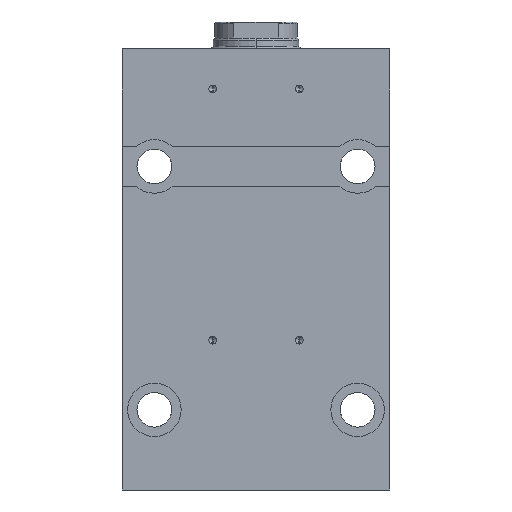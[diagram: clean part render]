
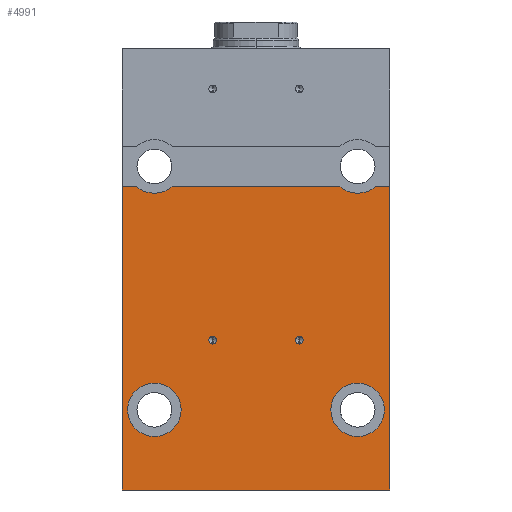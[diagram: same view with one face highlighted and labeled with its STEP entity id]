
A CAD part, left-side view. The second image highlights one B-rep face of the part: STEP entity #4991.
In plain terms, the highlighted planar face has unit normal (-1, 0, 0).
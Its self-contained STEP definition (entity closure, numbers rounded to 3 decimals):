
#181 = CARTESIAN_POINT ( 'NONE',  ( -37.5, 50., -175. ) ) ;
#186 = CIRCLE ( 'NONE', #2220, 10. ) ;
#228 = CARTESIAN_POINT ( 'NONE',  ( -37.5, 44.614, -61.5 ) ) ;
#449 = DIRECTION ( 'NONE',  ( 1., 0., 0. ) ) ;
#549 = VECTOR ( 'NONE', #1904, 1000. ) ;
#579 = EDGE_CURVE ( 'NONE', #1784, #6337, #4979, .T. ) ;
#600 = CARTESIAN_POINT ( 'NONE',  ( -37.5, 38., -54. ) ) ;
#666 = EDGE_CURVE ( 'NONE', #2901, #1944, #1542, .T. ) ;
#744 = CARTESIAN_POINT ( 'NONE',  ( -37.5, -16.2, -119. ) ) ;
#839 = CARTESIAN_POINT ( 'NONE',  ( -37.5, -38., -145. ) ) ;
#904 = CARTESIAN_POINT ( 'NONE',  ( -37.5, 38., -155. ) ) ;
#980 = FACE_BOUND ( 'NONE', #4460, .T. ) ;
#988 = VERTEX_POINT ( 'NONE', #1585 ) ;
#1008 = CIRCLE ( 'NONE', #3316, 1.425 ) ;
#1011 = FACE_BOUND ( 'NONE', #5348, .T. ) ;
#1081 = CARTESIAN_POINT ( 'NONE',  ( -37.5, -50., -175. ) ) ;
#1152 = EDGE_LOOP ( 'NONE', ( #5064, #6582, #6789, #1354, #2622, #4270, #4029, #4694 ) ) ;
#1154 = LINE ( 'NONE', #2537, #7679 ) ;
#1195 = CIRCLE ( 'NONE', #5150, 10. ) ;
#1243 = DIRECTION ( 'NONE',  ( 0., 0., 1. ) ) ;
#1291 = LINE ( 'NONE', #6743, #549 ) ;
#1354 = ORIENTED_EDGE ( 'NONE', *, *, #4770, .T. ) ;
#1376 = DIRECTION ( 'NONE',  ( -1., 0., 0. ) ) ;
#1385 = EDGE_CURVE ( 'NONE', #1588, #2234, #4333, .T. ) ;
#1391 = EDGE_CURVE ( 'NONE', #4804, #1784, #7657, .T. ) ;
#1400 = DIRECTION ( 'NONE',  ( 0., 0., 1. ) ) ;
#1402 = DIRECTION ( 'NONE',  ( 1., 0., 0. ) ) ;
#1475 = AXIS2_PLACEMENT_3D ( 'NONE', #3452, #4112, #7110 ) ;
#1522 = DIRECTION ( 'NONE',  ( 0., 0., -1. ) ) ;
#1542 = CIRCLE ( 'NONE', #5451, 10. ) ;
#1580 = EDGE_CURVE ( 'NONE', #4686, #7244, #1008, .T. ) ;
#1585 = CARTESIAN_POINT ( 'NONE',  ( -37.5, -31.386, -61.5 ) ) ;
#1588 = VERTEX_POINT ( 'NONE', #2643 ) ;
#1612 = FACE_BOUND ( 'NONE', #2936, .T. ) ;
#1696 = CIRCLE ( 'NONE', #5300, 1.425 ) ;
#1784 = VERTEX_POINT ( 'NONE', #2681 ) ;
#1904 = DIRECTION ( 'NONE',  ( 0., -1., 0. ) ) ;
#1944 = VERTEX_POINT ( 'NONE', #2965 ) ;
#1965 = CARTESIAN_POINT ( 'NONE',  ( -37.5, -38., -145. ) ) ;
#2150 = CARTESIAN_POINT ( 'NONE',  ( -37.5, -38., -135. ) ) ;
#2162 = ORIENTED_EDGE ( 'NONE', *, *, #2546, .T. ) ;
#2220 = AXIS2_PLACEMENT_3D ( 'NONE', #600, #3695, #6056 ) ;
#2222 = ORIENTED_EDGE ( 'NONE', *, *, #666, .T. ) ;
#2234 = VERTEX_POINT ( 'NONE', #4933 ) ;
#2366 = CIRCLE ( 'NONE', #6815, 1.425 ) ;
#2537 = CARTESIAN_POINT ( 'NONE',  ( -37.5, 50., -61.5 ) ) ;
#2546 = EDGE_CURVE ( 'NONE', #4985, #6777, #3902, .T. ) ;
#2550 = CARTESIAN_POINT ( 'NONE',  ( -37.5, 16.2, -117.575 ) ) ;
#2622 = ORIENTED_EDGE ( 'NONE', *, *, #579, .F. ) ;
#2643 = CARTESIAN_POINT ( 'NONE',  ( -37.5, -16.2, -120.425 ) ) ;
#2681 = CARTESIAN_POINT ( 'NONE',  ( -37.5, 50., -61.5 ) ) ;
#2771 = CARTESIAN_POINT ( 'NONE',  ( -37.5, 38., -145. ) ) ;
#2801 = EDGE_CURVE ( 'NONE', #5320, #988, #1195, .T. ) ;
#2811 = EDGE_CURVE ( 'NONE', #7028, #7622, #7111, .T. ) ;
#2901 = VERTEX_POINT ( 'NONE', #2150 ) ;
#2936 = EDGE_LOOP ( 'NONE', ( #4646, #4132 ) ) ;
#2965 = CARTESIAN_POINT ( 'NONE',  ( -37.5, -38., -155. ) ) ;
#2976 = CARTESIAN_POINT ( 'NONE',  ( -37.5, 16.2, -120.425 ) ) ;
#3144 = AXIS2_PLACEMENT_3D ( 'NONE', #1965, #1402, #5648 ) ;
#3145 = ORIENTED_EDGE ( 'NONE', *, *, #1385, .F. ) ;
#3172 = VERTEX_POINT ( 'NONE', #6235 ) ;
#3195 = VECTOR ( 'NONE', #5875, 1000. ) ;
#3213 = CARTESIAN_POINT ( 'NONE',  ( -37.5, -44.614, -61.5 ) ) ;
#3270 = DIRECTION ( 'NONE',  ( 1., 0., 0. ) ) ;
#3316 = AXIS2_PLACEMENT_3D ( 'NONE', #5569, #4389, #1400 ) ;
#3452 = CARTESIAN_POINT ( 'NONE',  ( -37.5, 50., -175. ) ) ;
#3470 = CARTESIAN_POINT ( 'NONE',  ( -37.5, 50., -175. ) ) ;
#3480 = EDGE_CURVE ( 'NONE', #5320, #7622, #3819, .T. ) ;
#3528 = PLANE ( 'NONE',  #1475 ) ;
#3533 = DIRECTION ( 'NONE',  ( 0., 0., -1. ) ) ;
#3565 = FACE_BOUND ( 'NONE', #5095, .T. ) ;
#3695 = DIRECTION ( 'NONE',  ( 1., 0., 0. ) ) ;
#3728 = CARTESIAN_POINT ( 'NONE',  ( -37.5, 50., -61.5 ) ) ;
#3749 = ORIENTED_EDGE ( 'NONE', *, *, #6090, .F. ) ;
#3819 = LINE ( 'NONE', #3728, #5292 ) ;
#3902 = CIRCLE ( 'NONE', #6929, 10. ) ;
#4029 = ORIENTED_EDGE ( 'NONE', *, *, #4649, .T. ) ;
#4112 = DIRECTION ( 'NONE',  ( -1., 0., 0. ) ) ;
#4132 = ORIENTED_EDGE ( 'NONE', *, *, #6567, .F. ) ;
#4270 = ORIENTED_EDGE ( 'NONE', *, *, #1391, .F. ) ;
#4333 = CIRCLE ( 'NONE', #5100, 1.425 ) ;
#4389 = DIRECTION ( 'NONE',  ( -1., 0., 0. ) ) ;
#4460 = EDGE_LOOP ( 'NONE', ( #2162, #7557 ) ) ;
#4469 = CARTESIAN_POINT ( 'NONE',  ( -37.5, 50., -61.5 ) ) ;
#4569 = DIRECTION ( 'NONE',  ( 0., 0., 1. ) ) ;
#4587 = DIRECTION ( 'NONE',  ( 0., 0., 1. ) ) ;
#4590 = ORIENTED_EDGE ( 'NONE', *, *, #7343, .T. ) ;
#4646 = ORIENTED_EDGE ( 'NONE', *, *, #1580, .F. ) ;
#4649 = EDGE_CURVE ( 'NONE', #4804, #7028, #1291, .T. ) ;
#4686 = VERTEX_POINT ( 'NONE', #2550 ) ;
#4694 = ORIENTED_EDGE ( 'NONE', *, *, #2811, .T. ) ;
#4770 = EDGE_CURVE ( 'NONE', #3172, #6337, #186, .T. ) ;
#4804 = VERTEX_POINT ( 'NONE', #181 ) ;
#4911 = CIRCLE ( 'NONE', #5168, 10. ) ;
#4933 = CARTESIAN_POINT ( 'NONE',  ( -37.5, -16.2, -117.575 ) ) ;
#4951 = DIRECTION ( 'NONE',  ( 0., -1., 0. ) ) ;
#4979 = LINE ( 'NONE', #4469, #7415 ) ;
#4985 = VERTEX_POINT ( 'NONE', #5340 ) ;
#4991 = ADVANCED_FACE ( 'NONE', ( #1011, #1612, #980, #3565, #7779 ), #3528, .T. ) ;
#5064 = ORIENTED_EDGE ( 'NONE', *, *, #3480, .F. ) ;
#5095 = EDGE_LOOP ( 'NONE', ( #2222, #4590 ) ) ;
#5100 = AXIS2_PLACEMENT_3D ( 'NONE', #6862, #1376, #4587 ) ;
#5150 = AXIS2_PLACEMENT_3D ( 'NONE', #6417, #5203, #6525 ) ;
#5168 = AXIS2_PLACEMENT_3D ( 'NONE', #2771, #6268, #5664 ) ;
#5203 = DIRECTION ( 'NONE',  ( 1., 0., 0. ) ) ;
#5292 = VECTOR ( 'NONE', #5587, 1000. ) ;
#5300 = AXIS2_PLACEMENT_3D ( 'NONE', #744, #7240, #6697 ) ;
#5320 = VERTEX_POINT ( 'NONE', #3213 ) ;
#5340 = CARTESIAN_POINT ( 'NONE',  ( -37.5, 38., -135. ) ) ;
#5348 = EDGE_LOOP ( 'NONE', ( #3749, #3145 ) ) ;
#5451 = AXIS2_PLACEMENT_3D ( 'NONE', #839, #3270, #1522 ) ;
#5569 = CARTESIAN_POINT ( 'NONE',  ( -37.5, 16.2, -119. ) ) ;
#5587 = DIRECTION ( 'NONE',  ( 0., -1., 0. ) ) ;
#5592 = DIRECTION ( 'NONE',  ( -1., 0., 0. ) ) ;
#5648 = DIRECTION ( 'NONE',  ( 0., 0., -1. ) ) ;
#5664 = DIRECTION ( 'NONE',  ( 0., 0., -1. ) ) ;
#5875 = DIRECTION ( 'NONE',  ( 0., 0., 1. ) ) ;
#6056 = DIRECTION ( 'NONE',  ( 0., 0., -1. ) ) ;
#6090 = EDGE_CURVE ( 'NONE', #2234, #1588, #1696, .T. ) ;
#6168 = CARTESIAN_POINT ( 'NONE',  ( -37.5, -50., -175. ) ) ;
#6235 = CARTESIAN_POINT ( 'NONE',  ( -37.5, 31.386, -61.5 ) ) ;
#6268 = DIRECTION ( 'NONE',  ( 1., 0., 0. ) ) ;
#6337 = VERTEX_POINT ( 'NONE', #228 ) ;
#6417 = CARTESIAN_POINT ( 'NONE',  ( -37.5, -38., -54. ) ) ;
#6525 = DIRECTION ( 'NONE',  ( 0., 0., -1. ) ) ;
#6549 = CIRCLE ( 'NONE', #3144, 10. ) ;
#6567 = EDGE_CURVE ( 'NONE', #7244, #4686, #2366, .T. ) ;
#6582 = ORIENTED_EDGE ( 'NONE', *, *, #2801, .T. ) ;
#6697 = DIRECTION ( 'NONE',  ( 0., 0., 1. ) ) ;
#6743 = CARTESIAN_POINT ( 'NONE',  ( -37.5, 50., -175. ) ) ;
#6772 = EDGE_CURVE ( 'NONE', #6777, #4985, #4911, .T. ) ;
#6777 = VERTEX_POINT ( 'NONE', #904 ) ;
#6781 = CARTESIAN_POINT ( 'NONE',  ( -37.5, -50., -61.5 ) ) ;
#6789 = ORIENTED_EDGE ( 'NONE', *, *, #7013, .F. ) ;
#6815 = AXIS2_PLACEMENT_3D ( 'NONE', #7275, #5592, #1243 ) ;
#6862 = CARTESIAN_POINT ( 'NONE',  ( -37.5, -16.2, -119. ) ) ;
#6929 = AXIS2_PLACEMENT_3D ( 'NONE', #7715, #449, #3533 ) ;
#7013 = EDGE_CURVE ( 'NONE', #3172, #988, #1154, .T. ) ;
#7028 = VERTEX_POINT ( 'NONE', #6168 ) ;
#7110 = DIRECTION ( 'NONE',  ( 0., 0., 1. ) ) ;
#7111 = LINE ( 'NONE', #1081, #7276 ) ;
#7240 = DIRECTION ( 'NONE',  ( -1., 0., 0. ) ) ;
#7244 = VERTEX_POINT ( 'NONE', #2976 ) ;
#7275 = CARTESIAN_POINT ( 'NONE',  ( -37.5, 16.2, -119. ) ) ;
#7276 = VECTOR ( 'NONE', #4569, 1000. ) ;
#7343 = EDGE_CURVE ( 'NONE', #1944, #2901, #6549, .T. ) ;
#7389 = DIRECTION ( 'NONE',  ( 0., -1., 0. ) ) ;
#7415 = VECTOR ( 'NONE', #7389, 1000. ) ;
#7557 = ORIENTED_EDGE ( 'NONE', *, *, #6772, .T. ) ;
#7622 = VERTEX_POINT ( 'NONE', #6781 ) ;
#7657 = LINE ( 'NONE', #3470, #3195 ) ;
#7679 = VECTOR ( 'NONE', #4951, 1000. ) ;
#7715 = CARTESIAN_POINT ( 'NONE',  ( -37.5, 38., -145. ) ) ;
#7779 = FACE_OUTER_BOUND ( 'NONE', #1152, .T. ) ;
